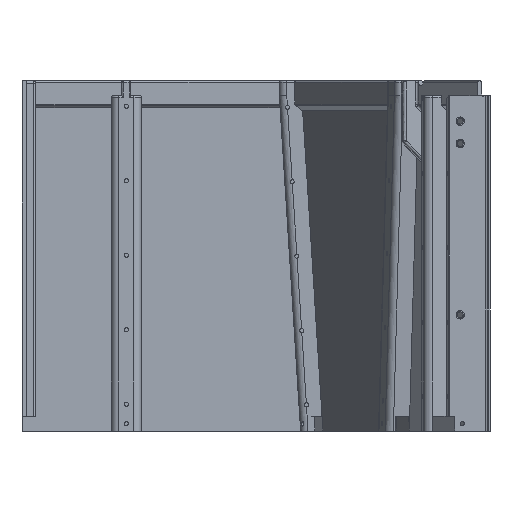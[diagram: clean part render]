
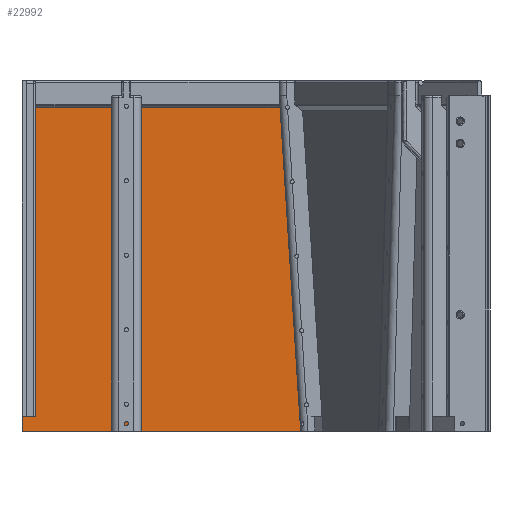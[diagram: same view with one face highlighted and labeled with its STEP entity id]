
A CAD part, front view. The second image highlights one B-rep face of the part: STEP entity #22992.
In plain terms, the highlighted planar face has unit normal (0, -1, 0).
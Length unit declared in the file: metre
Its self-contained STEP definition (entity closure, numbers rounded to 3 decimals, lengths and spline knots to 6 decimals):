
#913=PLANE('',#24488);
#2680=ORIENTED_EDGE('',*,*,#9127,.T.);
#2681=ORIENTED_EDGE('',*,*,#9346,.F.);
#2682=ORIENTED_EDGE('',*,*,#9097,.F.);
#2683=ORIENTED_EDGE('',*,*,#9269,.F.);
#2684=ORIENTED_EDGE('',*,*,#9347,.T.);
#2685=ORIENTED_EDGE('',*,*,#9348,.F.);
#2686=ORIENTED_EDGE('',*,*,#9349,.F.);
#2687=ORIENTED_EDGE('',*,*,#9350,.F.);
#2688=ORIENTED_EDGE('',*,*,#9255,.T.);
#2689=ORIENTED_EDGE('',*,*,#9137,.T.);
#2690=ORIENTED_EDGE('',*,*,#9351,.F.);
#2691=ORIENTED_EDGE('',*,*,#9352,.F.);
#2692=ORIENTED_EDGE('',*,*,#9123,.F.);
#2693=ORIENTED_EDGE('',*,*,#9301,.F.);
#9097=EDGE_CURVE('',#12457,#12458,#14747,.T.);
#9123=EDGE_CURVE('',#12477,#12478,#14763,.T.);
#9127=EDGE_CURVE('',#12482,#12481,#14767,.T.);
#9137=EDGE_CURVE('',#12492,#12491,#14776,.T.);
#9255=EDGE_CURVE('',#12603,#12492,#14856,.T.);
#9269=EDGE_CURVE('',#12614,#12457,#14866,.T.);
#9301=EDGE_CURVE('',#12482,#12477,#14885,.T.);
#9346=EDGE_CURVE('',#12458,#12481,#14916,.T.);
#9347=EDGE_CURVE('',#12614,#12663,#14917,.T.);
#9348=EDGE_CURVE('',#12664,#12663,#14918,.T.);
#9349=EDGE_CURVE('',#12598,#12664,#14919,.T.);
#9350=EDGE_CURVE('',#12603,#12598,#14920,.T.);
#9351=EDGE_CURVE('',#12665,#12491,#14921,.T.);
#9352=EDGE_CURVE('',#12478,#12665,#14922,.T.);
#12457=VERTEX_POINT('',#33931);
#12458=VERTEX_POINT('',#33933);
#12477=VERTEX_POINT('',#33979);
#12478=VERTEX_POINT('',#33981);
#12481=VERTEX_POINT('',#33988);
#12482=VERTEX_POINT('',#33990);
#12491=VERTEX_POINT('',#34009);
#12492=VERTEX_POINT('',#34011);
#12598=VERTEX_POINT('',#34272);
#12603=VERTEX_POINT('',#34284);
#12614=VERTEX_POINT('',#34314);
#12663=VERTEX_POINT('',#34484);
#12664=VERTEX_POINT('',#34486);
#12665=VERTEX_POINT('',#34490);
#14747=LINE('',#33932,#16928);
#14763=LINE('',#33980,#16944);
#14767=LINE('',#33989,#16948);
#14776=LINE('',#34010,#16957);
#14856=LINE('',#34283,#17037);
#14866=LINE('',#34315,#17047);
#14885=LINE('',#34379,#17066);
#14916=LINE('',#34482,#17097);
#14917=LINE('',#34483,#17098);
#14918=LINE('',#34485,#17099);
#14919=LINE('',#34487,#17100);
#14920=LINE('',#34488,#17101);
#14921=LINE('',#34489,#17102);
#14922=LINE('',#34491,#17103);
#16928=VECTOR('',#26838,1.);
#16944=VECTOR('',#26878,1.);
#16948=VECTOR('',#26884,1.);
#16957=VECTOR('',#26897,1.);
#17037=VECTOR('',#27051,1.);
#17047=VECTOR('',#27071,1.);
#17066=VECTOR('',#27128,1.);
#17097=VECTOR('',#27207,1.);
#17098=VECTOR('',#27208,1.);
#17099=VECTOR('',#27209,1.);
#17100=VECTOR('',#27210,1.);
#17101=VECTOR('',#27211,1.);
#17102=VECTOR('',#27212,1.);
#17103=VECTOR('',#27213,1.);
#19132=EDGE_LOOP('',(#2680,#2681,#2682,#2683,#2684,#2685,#2686,#2687,#2688,#2689,#2690,#2691,#2692,#2693));
#20930=FACE_BOUND('',#19132,.T.);
#22992=ADVANCED_FACE('',(#20930),#913,.F.);
#24488=AXIS2_PLACEMENT_3D('',#34481,#27205,#27206);
#26838=DIRECTION('',(0.,0.,-1.));
#26878=DIRECTION('',(0.063,0.,-0.998));
#26884=DIRECTION('',(0.,0.,-1.));
#26897=DIRECTION('',(1.,0.,0.));
#27051=DIRECTION('',(0.,0.,-1.));
#27071=DIRECTION('',(1.,0.,0.));
#27128=DIRECTION('',(1.,0.,0.));
#27205=DIRECTION('',(0.,1.,0.));
#27206=DIRECTION('',(-1.,0.,0.));
#27207=DIRECTION('',(1.,0.,0.));
#27208=DIRECTION('',(0.,0.,-1.));
#27209=DIRECTION('',(1.,0.,0.));
#27210=DIRECTION('',(0.,0.,-1.));
#27211=DIRECTION('',(1.,0.,0.));
#27212=DIRECTION('',(0.,0.,-1.));
#27213=DIRECTION('',(1.,0.,0.));
#33931=CARTESIAN_POINT('',(0.06,0.405,0.417));
#33932=CARTESIAN_POINT('',(0.06,0.405,0.425002));
#33933=CARTESIAN_POINT('',(0.06,0.405,0.21));
#33979=CARTESIAN_POINT('',(0.173148,0.405,0.417));
#33980=CARTESIAN_POINT('',(0.17258,0.405,0.425951));
#33981=CARTESIAN_POINT('',(0.186296,0.405,0.21));
#33988=CARTESIAN_POINT('',(0.08,0.405,0.21));
#33989=CARTESIAN_POINT('',(0.08,0.405,0.425002));
#33990=CARTESIAN_POINT('',(0.08,0.405,0.417));
#34009=CARTESIAN_POINT('',(0.186931,0.405,0.2));
#34010=CARTESIAN_POINT('',(0.0025,0.405,0.2));
#34011=CARTESIAN_POINT('',(0.,0.405,0.2));
#34272=CARTESIAN_POINT('',(0.0053,0.405,0.435));
#34283=CARTESIAN_POINT('',(0.,0.405,0.612147));
#34284=CARTESIAN_POINT('',(0.,0.405,0.435));
#34314=CARTESIAN_POINT('',(0.0093,0.405,0.417));
#34315=CARTESIAN_POINT('',(0.0025,0.405,0.417));
#34379=CARTESIAN_POINT('',(0.0025,0.405,0.417));
#34481=CARTESIAN_POINT('',(0.0025,0.405,0.612147));
#34482=CARTESIAN_POINT('',(0.096116,0.405,0.21));
#34483=CARTESIAN_POINT('',(0.0093,0.405,0.435002));
#34484=CARTESIAN_POINT('',(0.0093,0.405,0.21));
#34485=CARTESIAN_POINT('',(0.096116,0.405,0.21));
#34486=CARTESIAN_POINT('',(0.0053,0.405,0.21));
#34487=CARTESIAN_POINT('',(0.0053,0.405,0.435002));
#34488=CARTESIAN_POINT('',(0.,0.405,0.435));
#34489=CARTESIAN_POINT('',(0.186931,0.405,0.205));
#34490=CARTESIAN_POINT('',(0.186931,0.405,0.21));
#34491=CARTESIAN_POINT('',(0.096116,0.405,0.21));
